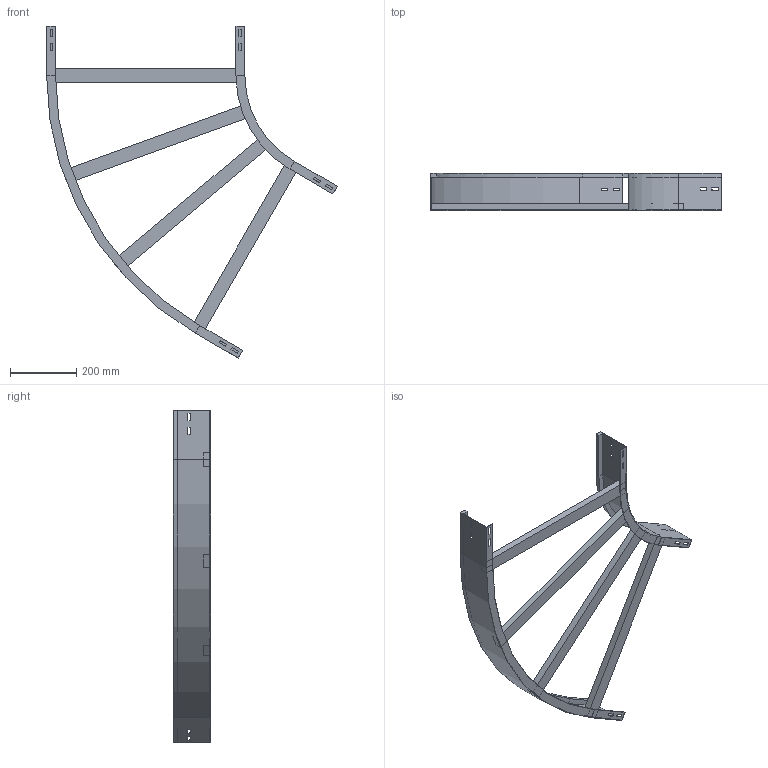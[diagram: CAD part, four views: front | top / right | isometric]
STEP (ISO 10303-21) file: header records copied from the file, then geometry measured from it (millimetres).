
FILE_DESCRIPTION (( 'STEP AP214' ), '1' );
FILE_NAME ('A2_13B3J600.step', '2025-02-21T15:19:36', ( '' ), ( '' ), 'SwSTEP 2.0', 'SolidWorks 2023', '' );
FILE_SCHEMA (( 'AUTOMOTIVE_DESIGN' ));
Length unit declared in the file: millimetre
Products named in the file (4): A2_LONGH.ESTERNO 60°_H112.5_R300+600; TRAVERSINO_600; A2_13B3J600; A2_LONGH.INTERNO 60°_H112.5_R300
Assembly tree (6 placements, depth 2):
  A2_13B3J600
    A2_LONGH.INTERNO 60°_H112.5_R300
    A2_LONGH.ESTERNO 60°_H112.5_R300+600
    TRAVERSINO_600  x4
Bounding box: 879.9 x 112.5 x 1004.42 mm (x, y, z)
Volume: 2793161.5 mm3; surface area: 871154.1 mm2
Topology: 6 solids, 6 shells, 140 faces, 352 edges, 224 vertices
Faces by surface type: plane 132, cylinder 8
Entity records: 3829 total; most frequent: CARTESIAN_POINT 647, ORIENTED_EDGE 632, DIRECTION 594, EDGE_CURVE 316, VECTOR 300, LINE 300, VERTEX_POINT 200, EDGE_LOOP 154
